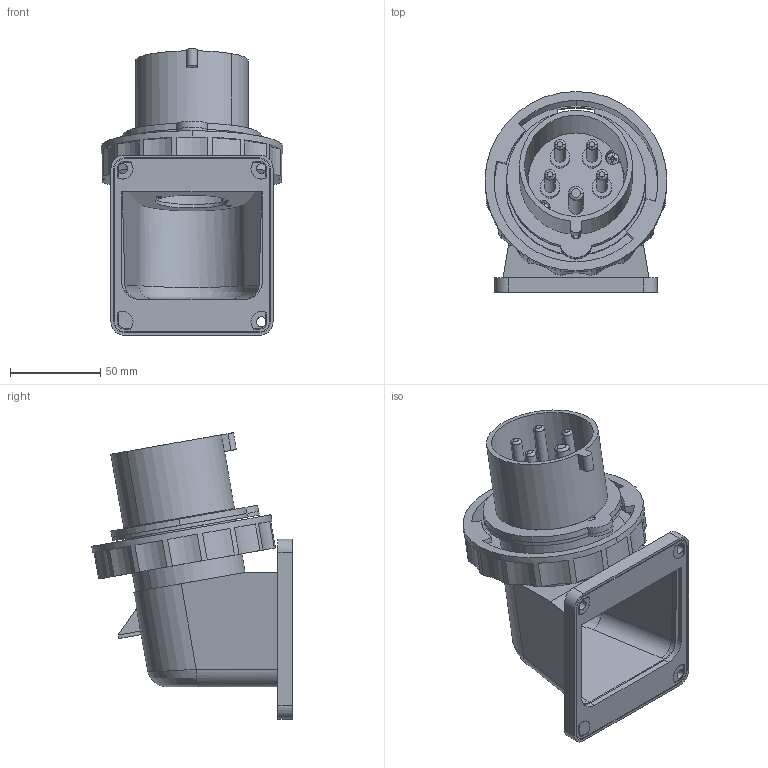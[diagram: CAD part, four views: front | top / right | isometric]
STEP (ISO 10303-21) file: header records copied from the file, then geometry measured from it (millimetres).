
FILE_DESCRIPTION((''),'2;1');
FILE_NAME('83871_3D-SIMPLIFIED_ASM','2023-03-07T15:43:17',('melanie.cordero'),(''),'CREO PARAMETRIC BY PTC INC, 2018260','CREO PARAMETRIC BY PTC INC, 2018260','');
FILE_SCHEMA(('CONFIG_CONTROL_DESIGN'));
Length unit declared in the file: millimetre
Products named in the file (7): PRT01; PRT02; PRT03; PRT04; PRT05; PRT06; 83871_3D-SIMPLIFIED_ASM
Assembly tree (7 placements, depth 2):
  83871_3D-SIMPLIFIED_ASM
    PRT01
    PRT02
    PRT03
    PRT04
    PRT05
    PRT06  x2
Bounding box: 101 x 111.37 x 159.1 mm (x, y, z)
Volume: 213382.9 mm3; surface area: 136163.9 mm2
Topology: 7 solids, 7 shells, 352 faces, 941 edges, 630 vertices
Faces by surface type: plane 175, cylinder 145, cone 14, bspline 10, sphere 4, extrusion 2, torus 2
Entity records: 11101 total; most frequent: CARTESIAN_POINT 2546, DIRECTION 1877, ORIENTED_EDGE 1706, EDGE_CURVE 853, AXIS2_PLACEMENT_3D 740, VERTEX_POINT 573, CIRCLE 415, VECTOR 397
